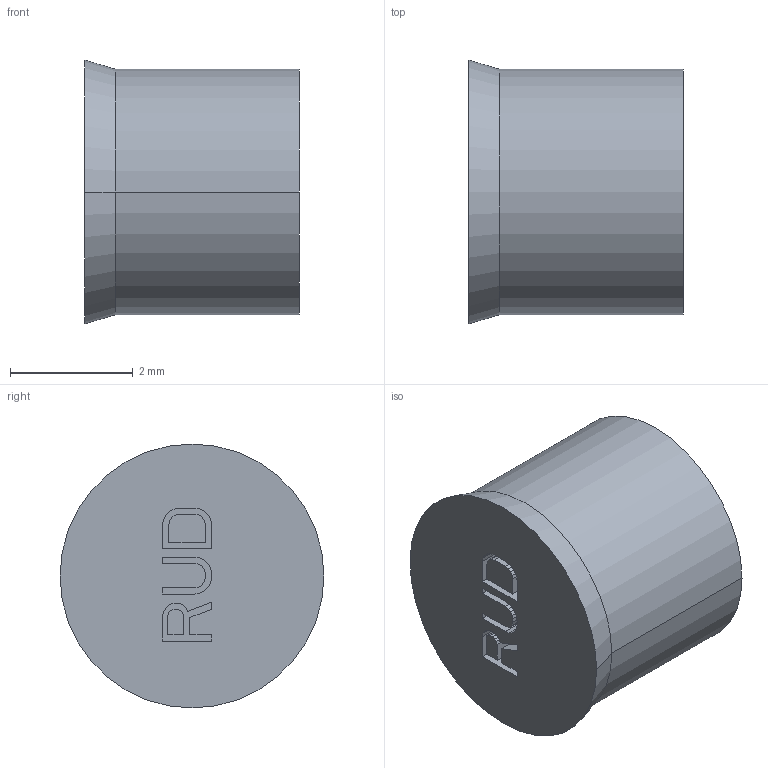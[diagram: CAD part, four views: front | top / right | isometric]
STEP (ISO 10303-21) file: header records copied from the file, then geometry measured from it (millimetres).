
FILE_DESCRIPTION((''),'2;1');
FILE_NAME('001-M34494-P1','2019-03-12T',('anja.joas'),(''),'PRO/ENGINEER BY PARAMETRIC TECHNOLOGY CORPORATION, 2011490','PRO/ENGINEER BY PARAMETRIC TECHNOLOGY CORPORATION, 2011490','');
FILE_SCHEMA(('CONFIG_CONTROL_DESIGN'));
Length unit declared in the file: millimetre
Products named in the file (1): 001-M34494-P1
Bounding box: 3.5 x 4.3 x 4.3 mm (x, y, z)
Volume: 44.1 mm3; surface area: 78.2 mm2
Topology: 1 solids, 1 shells, 89 faces, 244 edges, 162 vertices
Faces by surface type: plane 85, cylinder 2, cone 2
Entity records: 2806 total; most frequent: CARTESIAN_POINT 495, ORIENTED_EDGE 488, DIRECTION 428, EDGE_CURVE 244, VECTOR 238, LINE 238, VERTEX_POINT 162, AXIS2_PLACEMENT_3D 95
